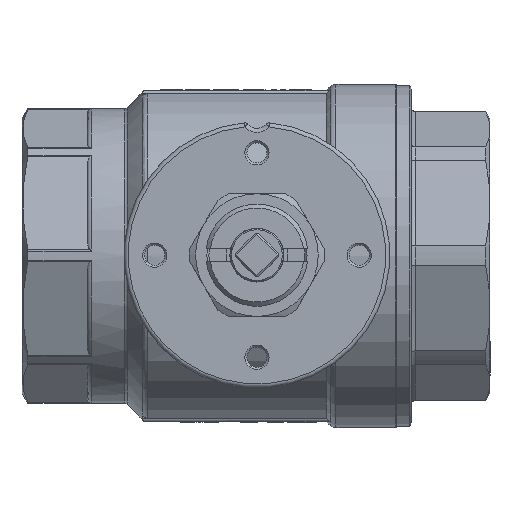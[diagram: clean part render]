
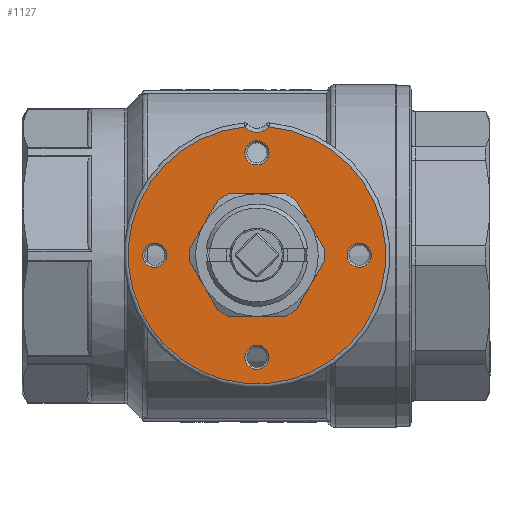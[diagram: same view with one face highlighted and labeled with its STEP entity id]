
A CAD part, top view. The second image highlights one B-rep face of the part: STEP entity #1127.
In plain terms, the highlighted planar face has unit normal (0, 0, 1) as drawn and (-1, 0, 0) by its records, which use the part's own axes.
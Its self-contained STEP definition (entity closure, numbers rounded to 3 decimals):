
#1043=CARTESIAN_POINT('',(-12.5,2.959,-25.0));
#1044=VERTEX_POINT('',#1043);
#1045=CARTESIAN_POINT('',(-12.5,0.,-25.0));
#1046=DIRECTION('',(-1.0,0.0,0.0));
#1047=DIRECTION('',(0.0,-1.0,0.0));
#1048=AXIS2_PLACEMENT_3D('',#1045,#1046,#1047);
#1049=CIRCLE('',#1048,2.959);
#1050=EDGE_CURVE('',#1044,#1044,#1049,.T.);
#1055=CARTESIAN_POINT('',(-12.5,16.25,0.0));
#1056=DIRECTION('',(-1.0,0.0,0.0));
#1057=DIRECTION('',(0.0,0.0,1.0));
#1058=AXIS2_PLACEMENT_3D('',#1055,#1056,#1057);
#1059=PLANE('',#1058);
#1060=CARTESIAN_POINT('',(-12.5,3.002,31.357));
#1061=VERTEX_POINT('',#1060);
#1062=CARTESIAN_POINT('',(-12.5,-3.002,31.357));
#1063=VERTEX_POINT('',#1062);
#1064=CARTESIAN_POINT('',(-12.5,0.,34.0));
#1065=DIRECTION('',(-1.0,0.0,0.0));
#1066=DIRECTION('',(0.0,0.0,-1.0));
#1067=AXIS2_PLACEMENT_3D('',#1064,#1065,#1066);
#1068=CIRCLE('',#1067,4.0);
#1069=EDGE_CURVE('',#1061,#1063,#1068,.T.);
#1070=ORIENTED_EDGE('',*,*,#1069,.F.);
#1071=CARTESIAN_POINT('',(-12.5,0.,0.0));
#1072=DIRECTION('',(1.0,0.0,0.0));
#1073=DIRECTION('',(0.0,-1.0,0.0));
#1074=AXIS2_PLACEMENT_3D('',#1071,#1072,#1073);
#1075=CIRCLE('',#1074,31.5);
#1076=EDGE_CURVE('',#1063,#1061,#1075,.T.);
#1077=ORIENTED_EDGE('',*,*,#1076,.F.);
#1078=EDGE_LOOP('',(#1070,#1077));
#1079=FACE_OUTER_BOUND('',#1078,.T.);
#1080=CARTESIAN_POINT('',(-12.5,27.958,0.));
#1081=VERTEX_POINT('',#1080);
#1082=CARTESIAN_POINT('',(-12.5,25.0,0.0));
#1083=DIRECTION('',(-1.0,0.0,0.0));
#1084=DIRECTION('',(0.0,-1.0,0.0));
#1085=AXIS2_PLACEMENT_3D('',#1082,#1083,#1084);
#1086=CIRCLE('',#1085,2.958);
#1087=EDGE_CURVE('',#1081,#1081,#1086,.T.);
#1088=ORIENTED_EDGE('',*,*,#1087,.F.);
#1089=EDGE_LOOP('',(#1088));
#1090=FACE_BOUND('',#1089,.T.);
#1091=CARTESIAN_POINT('',(-12.5,2.959,25.0));
#1092=VERTEX_POINT('',#1091);
#1093=CARTESIAN_POINT('',(-12.5,0.,25.0));
#1094=DIRECTION('',(-1.0,0.0,0.0));
#1095=DIRECTION('',(0.0,-1.0,0.0));
#1096=AXIS2_PLACEMENT_3D('',#1093,#1094,#1095);
#1097=CIRCLE('',#1096,2.959);
#1098=EDGE_CURVE('',#1092,#1092,#1097,.T.);
#1099=ORIENTED_EDGE('',*,*,#1098,.F.);
#1100=EDGE_LOOP('',(#1099));
#1101=FACE_BOUND('',#1100,.T.);
#1102=CARTESIAN_POINT('',(-12.5,-12.5,0.));
#1103=VERTEX_POINT('',#1102);
#1104=CARTESIAN_POINT('',(-12.5,0.,0.0));
#1105=DIRECTION('',(1.0,0.0,0.0));
#1106=DIRECTION('',(0.0,1.0,0.0));
#1107=AXIS2_PLACEMENT_3D('',#1104,#1105,#1106);
#1108=CIRCLE('',#1107,12.5);
#1109=EDGE_CURVE('',#1103,#1103,#1108,.T.);
#1110=ORIENTED_EDGE('',*,*,#1109,.T.);
#1111=EDGE_LOOP('',(#1110));
#1112=FACE_BOUND('',#1111,.T.);
#1113=CARTESIAN_POINT('',(-12.5,-22.042,0.));
#1114=VERTEX_POINT('',#1113);
#1115=CARTESIAN_POINT('',(-12.5,-25.0,0.0));
#1116=DIRECTION('',(-1.0,0.0,0.0));
#1117=DIRECTION('',(0.0,-1.0,0.0));
#1118=AXIS2_PLACEMENT_3D('',#1115,#1116,#1117);
#1119=CIRCLE('',#1118,2.958);
#1120=EDGE_CURVE('',#1114,#1114,#1119,.T.);
#1121=ORIENTED_EDGE('',*,*,#1120,.F.);
#1122=EDGE_LOOP('',(#1121));
#1123=FACE_BOUND('',#1122,.T.);
#1124=ORIENTED_EDGE('',*,*,#1050,.F.);
#1125=EDGE_LOOP('',(#1124));
#1126=FACE_BOUND('',#1125,.T.);
#1127=ADVANCED_FACE('',(#1079,#1090,#1101,#1112,#1123,#1126),#1059,.T.);
